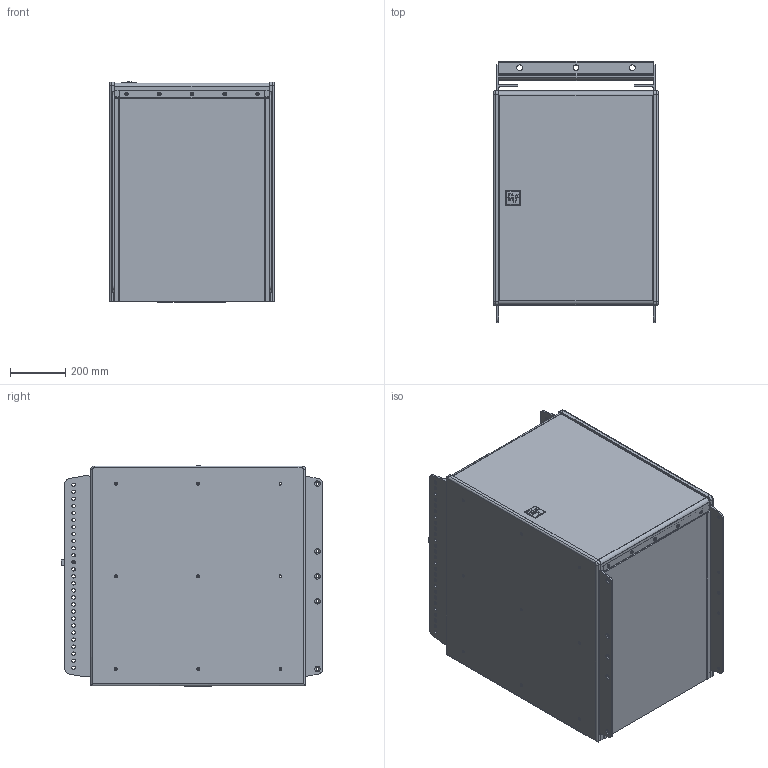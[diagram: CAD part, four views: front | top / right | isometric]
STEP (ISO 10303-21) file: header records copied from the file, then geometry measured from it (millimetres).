
FILE_DESCRIPTION (( 'STEP AP214' ), '1' );
FILE_NAME ('EVA-2151D Top Element With Grid 3D CAD.STEP', '2023-03-13T03:51:14', ( '' ), ( '' ), 'SwSTEP 2.0', 'SolidWorks 2021', '' );
FILE_SCHEMA (( 'AUTOMOTIVE_DESIGN' ));
Length unit declared in the file: millimetre
Products named in the file (12): EVA-2151D Top Element With Grid 3D CAD; EVA-2151D Side Plate; EVA-2151D Grille; EVA-2151D EVA Grid; EVA-2151D EV Logo; EVA-2151D Enclosure Assembly ; EVA-2151D Top and Bottom Plate; EVA-2151D Back Plate; EVA-2151D Spreader Bar; EVA-2151D Rear Panel; EVA-2151D Cover Plate; EVA-2151D EVA Tie Plate
Assembly tree (16 placements, depth 3):
  EVA-2151D Top Element With Grid 3D CAD
    EVA-2151D Enclosure Assembly 
      EVA-2151D Back Plate
      EVA-2151D Top and Bottom Plate  x2
      EVA-2151D Side Plate  x2
    EVA-2151D EV Logo
    EVA-2151D Grille
    EVA-2151D Rear Panel
    EVA-2151D EVA Tie Plate  x2
    EVA-2151D EVA Grid  x2
    EVA-2151D Cover Plate  x2
    EVA-2151D Spreader Bar
Bounding box: 594.82 x 943.1 x 793.93 mm (x, y, z)
Volume: 66844648.6 mm3; surface area: 10036897.5 mm2
Topology: 15 solids, 15 shells, 1208 faces, 3221 edges, 2049 vertices
Faces by surface type: cylinder 485, plane 408, cone 164, bspline 127, torus 24
Entity records: 29411 total; most frequent: CARTESIAN_POINT 9067, ORIENTED_EDGE 4228, DIRECTION 3958, EDGE_CURVE 2114, AXIS2_PLACEMENT_3D 1441, VERTEX_POINT 1337, VECTOR 1076, LINE 1076
